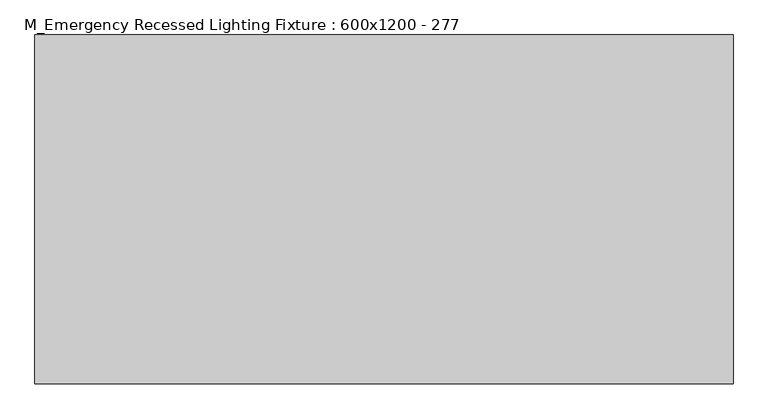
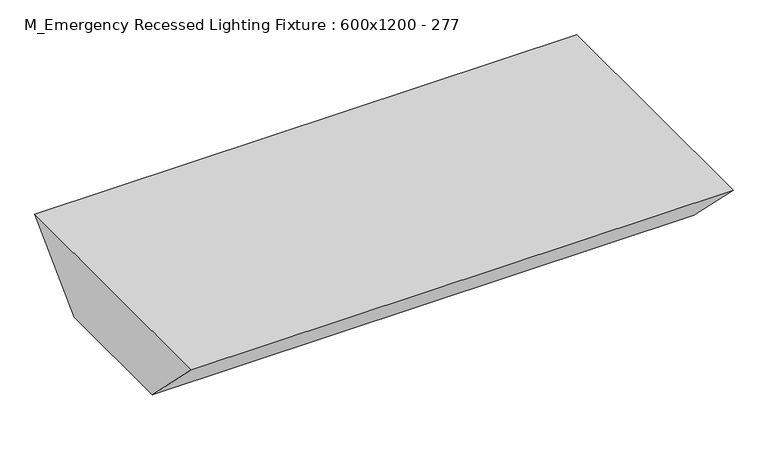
"""IFC4 building model written with IfcOpenShell, lengths in millimetres: light fixture geometry, M_Emergency Recessed Lighting Fixture : 600x1200 - 277."""

from ifc_helpers import new_model, si_unit, frame, origin, place, context, project, spatial, polyline, outline, extrude, source, transform, mapped, element, save


def m_emergency_recessed_lighting_fixture_600x1200_277_5b10b25d(model_context):
    return source(origin(), model_context, "Body", "SweptSolid", [
        extrude(outline(polyline([(-600.0, 0.0), (0.0, 0.0), (-150.0, -150.0), (-450.0, -150.0), (-600.0, 0.0)])), frame((0.0, 0.0, 0.0), z_axis=(1.0, 0.0, 0.0), x_axis=(0.0, 1.0, 0.0)), (0.0, 0.0, 1.0), 1200.0),
    ])


if __name__ == "__main__":
    model = new_model("IFC4")
    model_context = context("Model", 3, world=origin())
    ifc_project = project(units=[si_unit("LENGTHUNIT", "METRE", prefix="MILLI")], contexts=[model_context])
    site = spatial("IfcSite", under=ifc_project)
    building = spatial("IfcBuilding", under=site)
    placement = place(None, origin())
    m_emergency_recessed_lighting_fixture_600x1200_277_shape = m_emergency_recessed_lighting_fixture_600x1200_277_5b10b25d(model_context)
    element("IfcLightFixture", 1, ObjectType="M_Emergency Recessed Lighting Fixture : 600x1200 - 277", at=placement, inside=building, context=model_context, shape_type="MappedRepresentation", body=[
        mapped(m_emergency_recessed_lighting_fixture_600x1200_277_shape, transform((0.0, 0.0, 0.0), x_axis=(1.0, 0.0, 0.0), y_axis=(0.0, 1.0, 0.0), z_axis=(0.0, 0.0, 1.0))),
    ])
    save(model, "model.ifc")
